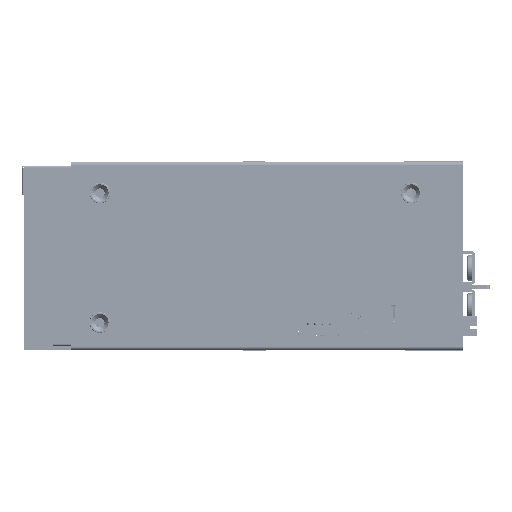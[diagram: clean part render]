
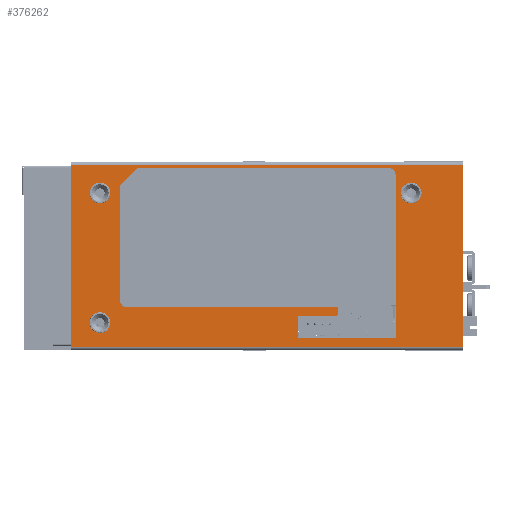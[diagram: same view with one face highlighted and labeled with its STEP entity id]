
A CAD part, top view. The second image highlights one B-rep face of the part: STEP entity #376262.
In plain terms, the highlighted planar face has unit normal (0, 0, 1) as drawn and (0, 0, -1) by its records, which use the part's own axes.
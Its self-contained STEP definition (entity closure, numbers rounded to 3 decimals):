
#371903=DIRECTION('',(0.,-1.,0.));
#371904=VECTOR('',#371903,108.8);
#371905=CARTESIAN_POINT('',(1.,-13.2,-0.8));
#371906=LINE('',#371905,#371904);
#372851=DIRECTION('',(1.,0.,0.));
#372852=VECTOR('',#372851,50.4);
#372853=CARTESIAN_POINT('',(1.,-13.2,-0.8));
#372854=LINE('',#372853,#372852);
#372858=DIRECTION('',(1.,0.,0.));
#372859=VECTOR('',#372858,50.4);
#372860=CARTESIAN_POINT('',(1.,-122.,-0.8));
#372861=LINE('',#372860,#372859);
#372865=CARTESIAN_POINT('',(38.47,-28.73,-0.8));
#372866=DIRECTION('',(0.,0.,-1.));
#372867=DIRECTION('',(0.,1.,0.));
#372868=AXIS2_PLACEMENT_3D('',#372865,#372866,#372867);
#372873=DIRECTION('',(0.,-1.,0.));
#372874=VECTOR('',#372873,58.47);
#372875=CARTESIAN_POINT('',(40.47,-28.73,-0.8));
#372876=LINE('',#372875,#372874);
#372880=DIRECTION('',(-1.,0.,0.));
#372881=VECTOR('',#372880,2.03);
#372882=CARTESIAN_POINT('',(42.5,-87.2,-0.8));
#372883=LINE('',#372882,#372881);
#372887=CARTESIAN_POINT('',(42.5,-86.7,-0.8));
#372888=DIRECTION('',(0.,0.,-1.));
#372889=DIRECTION('',(1.,0.,0.));
#372890=AXIS2_PLACEMENT_3D('',#372887,#372888,#372889);
#372895=DIRECTION('',(0.,-1.,0.));
#372896=VECTOR('',#372895,10.5);
#372897=CARTESIAN_POINT('',(43.,-76.2,-0.8));
#372898=LINE('',#372897,#372896);
#372902=DIRECTION('',(-1.,0.,0.));
#372903=VECTOR('',#372902,6.);
#372904=CARTESIAN_POINT('',(49.,-76.2,-0.8));
#372905=LINE('',#372904,#372903);
#372909=DIRECTION('',(0.,1.,0.));
#372910=VECTOR('',#372909,11.);
#372911=CARTESIAN_POINT('',(49.,-87.2,-0.8));
#372912=LINE('',#372911,#372910);
#372916=DIRECTION('',(0.,1.,0.));
#372917=VECTOR('',#372916,16.13);
#372918=CARTESIAN_POINT('',(49.,-103.33,-0.8));
#372919=LINE('',#372918,#372917);
#372923=CARTESIAN_POINT('',(3.8,-101.33,-0.8));
#372924=DIRECTION('',(0.,0.,-1.));
#372925=DIRECTION('',(0.,-1.,0.));
#372926=AXIS2_PLACEMENT_3D('',#372923,#372924,#372925);
#372931=DIRECTION('',(0.,1.,0.));
#372932=VECTOR('',#372931,69.6);
#372933=CARTESIAN_POINT('',(1.8,-101.33,-0.8));
#372934=LINE('',#372933,#372932);
#372938=DIRECTION('',(0.707,0.707,0.));
#372939=VECTOR('',#372938,7.071);
#372940=CARTESIAN_POINT('',(1.8,-31.73,-0.8));
#372941=LINE('',#372940,#372939);
#372945=DIRECTION('',(1.,0.,0.));
#372946=VECTOR('',#372945,31.67);
#372947=CARTESIAN_POINT('',(6.8,-26.73,-0.8));
#372948=LINE('',#372947,#372946);
#372952=CARTESIAN_POINT('',(44.74,-21.17,-0.8));
#372953=DIRECTION('',(0.,0.,-1.));
#372954=DIRECTION('',(1.,0.,0.));
#372955=AXIS2_PLACEMENT_3D('',#372952,#372953,#372954);
#372960=CARTESIAN_POINT('',(44.74,-21.17,-0.8));
#372961=DIRECTION('',(0.,0.,-1.));
#372962=DIRECTION('',(-1.,0.,0.));
#372963=AXIS2_PLACEMENT_3D('',#372960,#372961,#372962);
#372968=CARTESIAN_POINT('',(8.74,-21.17,-0.8));
#372969=DIRECTION('',(0.,0.,-1.));
#372970=DIRECTION('',(1.,0.,0.));
#372971=AXIS2_PLACEMENT_3D('',#372968,#372969,#372970);
#372976=CARTESIAN_POINT('',(8.74,-21.17,-0.8));
#372977=DIRECTION('',(0.,0.,-1.));
#372978=DIRECTION('',(-1.,0.,0.));
#372979=AXIS2_PLACEMENT_3D('',#372976,#372977,#372978);
#372984=CARTESIAN_POINT('',(8.74,-107.67,-0.8));
#372985=DIRECTION('',(0.,0.,-1.));
#372986=DIRECTION('',(1.,0.,0.));
#372987=AXIS2_PLACEMENT_3D('',#372984,#372985,#372986);
#372992=CARTESIAN_POINT('',(8.74,-107.67,-0.8));
#372993=DIRECTION('',(0.,0.,-1.));
#372994=DIRECTION('',(-1.,0.,0.));
#372995=AXIS2_PLACEMENT_3D('',#372992,#372993,#372994);
#373038=DIRECTION('',(0.,1.,0.));
#373039=VECTOR('',#373038,108.8);
#373040=CARTESIAN_POINT('',(51.4,-122.,-0.8));
#373041=LINE('',#373040,#373039);
#374232=DIRECTION('',(1.,0.,0.));
#374233=VECTOR('',#374232,45.2);
#374234=CARTESIAN_POINT('',(3.8,-103.33,-0.8));
#374235=LINE('',#374234,#374233);
#374409=CARTESIAN_POINT('',(51.4,-122.,-0.8));
#374411=VERTEX_POINT('',#374409);
#374417=CARTESIAN_POINT('',(1.,-122.,-0.8));
#374419=VERTEX_POINT('',#374417);
#374487=CARTESIAN_POINT('',(1.,-13.2,-0.8));
#374488=CARTESIAN_POINT('',(51.4,-13.2,-0.8));
#374489=VERTEX_POINT('',#374487);
#374490=VERTEX_POINT('',#374488);
#374501=CARTESIAN_POINT('',(49.,-76.2,-0.8));
#374502=CARTESIAN_POINT('',(43.,-76.2,-0.8));
#374503=VERTEX_POINT('',#374501);
#374504=VERTEX_POINT('',#374502);
#374603=CARTESIAN_POINT('',(49.,-87.2,-0.8));
#374604=VERTEX_POINT('',#374603);
#374699=CARTESIAN_POINT('',(49.,-103.33,-0.8));
#374700=VERTEX_POINT('',#374699);
#374705=CARTESIAN_POINT('',(43.,-86.7,-0.8));
#374706=VERTEX_POINT('',#374705);
#374707=CARTESIAN_POINT('',(42.5,-87.2,-0.8));
#374708=VERTEX_POINT('',#374707);
#374721=CARTESIAN_POINT('',(38.47,-26.73,-0.8));
#374722=CARTESIAN_POINT('',(40.47,-28.73,-0.8));
#374723=VERTEX_POINT('',#374721);
#374724=VERTEX_POINT('',#374722);
#374725=CARTESIAN_POINT('',(40.47,-87.2,-0.8));
#374726=VERTEX_POINT('',#374725);
#374727=CARTESIAN_POINT('',(3.8,-103.33,-0.8));
#374728=CARTESIAN_POINT('',(1.8,-101.33,-0.8));
#374729=VERTEX_POINT('',#374727);
#374730=VERTEX_POINT('',#374728);
#374731=CARTESIAN_POINT('',(1.8,-31.73,-0.8));
#374732=VERTEX_POINT('',#374731);
#374733=CARTESIAN_POINT('',(6.8,-26.73,-0.8));
#374734=VERTEX_POINT('',#374733);
#374753=CARTESIAN_POINT('',(11.615,-107.67,-0.8));
#374754=CARTESIAN_POINT('',(5.865,-107.67,-0.8));
#374755=VERTEX_POINT('',#374753);
#374756=VERTEX_POINT('',#374754);
#374757=CARTESIAN_POINT('',(11.615,-21.17,-0.8));
#374758=CARTESIAN_POINT('',(5.865,-21.17,-0.8));
#374759=VERTEX_POINT('',#374757);
#374760=VERTEX_POINT('',#374758);
#374761=CARTESIAN_POINT('',(47.615,-21.17,-0.8));
#374762=CARTESIAN_POINT('',(41.865,-21.17,-0.8));
#374763=VERTEX_POINT('',#374761);
#374764=VERTEX_POINT('',#374762);
#376203=CARTESIAN_POINT('',(0.,0.,-0.8));
#376204=DIRECTION('',(0.,0.,1.));
#376205=DIRECTION('',(1.,0.,0.));
#376206=AXIS2_PLACEMENT_3D('',#376203,#376204,#376205);
#376207=PLANE('',#376206);
#376208=ORIENTED_EDGE('',*,*,#374936,.F.);
#376209=ORIENTED_EDGE('',*,*,#375024,.T.);
#376211=ORIENTED_EDGE('',*,*,#376210,.T.);
#376213=ORIENTED_EDGE('',*,*,#376212,.T.);
#376214=EDGE_LOOP('',(#376208,#376209,#376211,#376213));
#376215=FACE_OUTER_BOUND('',#376214,.F.);
#376217=ORIENTED_EDGE('',*,*,#376216,.T.);
#376219=ORIENTED_EDGE('',*,*,#376218,.T.);
#376221=ORIENTED_EDGE('',*,*,#376220,.F.);
#376223=ORIENTED_EDGE('',*,*,#376222,.F.);
#376225=ORIENTED_EDGE('',*,*,#376224,.F.);
#376227=ORIENTED_EDGE('',*,*,#376226,.F.);
#376229=ORIENTED_EDGE('',*,*,#376228,.F.);
#376231=ORIENTED_EDGE('',*,*,#376230,.F.);
#376233=ORIENTED_EDGE('',*,*,#376232,.F.);
#376235=ORIENTED_EDGE('',*,*,#376234,.T.);
#376237=ORIENTED_EDGE('',*,*,#376236,.T.);
#376239=ORIENTED_EDGE('',*,*,#376238,.T.);
#376241=ORIENTED_EDGE('',*,*,#376240,.T.);
#376242=EDGE_LOOP('',(#376217,#376219,#376221,#376223,#376225,#376227,#376229,
#376231,#376233,#376235,#376237,#376239,#376241));
#376243=FACE_BOUND('',#376242,.F.);
#376245=ORIENTED_EDGE('',*,*,#376244,.T.);
#376247=ORIENTED_EDGE('',*,*,#376246,.T.);
#376248=EDGE_LOOP('',(#376245,#376247));
#376249=FACE_BOUND('',#376248,.F.);
#376251=ORIENTED_EDGE('',*,*,#376250,.T.);
#376253=ORIENTED_EDGE('',*,*,#376252,.T.);
#376254=EDGE_LOOP('',(#376251,#376253));
#376255=FACE_BOUND('',#376254,.F.);
#376257=ORIENTED_EDGE('',*,*,#376256,.T.);
#376259=ORIENTED_EDGE('',*,*,#376258,.T.);
#376260=EDGE_LOOP('',(#376257,#376259));
#376261=FACE_BOUND('',#376260,.F.);
#376262=ADVANCED_FACE('',(#376215,#376243,#376249,#376255,#376261),#376207,.F.);
#372869=CIRCLE('',#372868,2.);
#372891=CIRCLE('',#372890,0.5);
#372927=CIRCLE('',#372926,2.);
#372956=CIRCLE('',#372955,2.875);
#372964=CIRCLE('',#372963,2.875);
#372972=CIRCLE('',#372971,2.875);
#372980=CIRCLE('',#372979,2.875);
#372988=CIRCLE('',#372987,2.875);
#372996=CIRCLE('',#372995,2.875);
#374936=EDGE_CURVE('',#374489,#374490,#372854,.T.);
#375024=EDGE_CURVE('',#374489,#374419,#371906,.T.);
#376210=EDGE_CURVE('',#374419,#374411,#372861,.T.);
#376212=EDGE_CURVE('',#374411,#374490,#373041,.T.);
#376216=EDGE_CURVE('',#374723,#374724,#372869,.T.);
#376218=EDGE_CURVE('',#374724,#374726,#372876,.T.);
#376220=EDGE_CURVE('',#374708,#374726,#372883,.T.);
#376222=EDGE_CURVE('',#374706,#374708,#372891,.T.);
#376224=EDGE_CURVE('',#374504,#374706,#372898,.T.);
#376226=EDGE_CURVE('',#374503,#374504,#372905,.T.);
#376228=EDGE_CURVE('',#374604,#374503,#372912,.T.);
#376230=EDGE_CURVE('',#374700,#374604,#372919,.T.);
#376232=EDGE_CURVE('',#374729,#374700,#374235,.T.);
#376234=EDGE_CURVE('',#374729,#374730,#372927,.T.);
#376236=EDGE_CURVE('',#374730,#374732,#372934,.T.);
#376238=EDGE_CURVE('',#374732,#374734,#372941,.T.);
#376240=EDGE_CURVE('',#374734,#374723,#372948,.T.);
#376244=EDGE_CURVE('',#374763,#374764,#372956,.T.);
#376246=EDGE_CURVE('',#374764,#374763,#372964,.T.);
#376250=EDGE_CURVE('',#374759,#374760,#372972,.T.);
#376252=EDGE_CURVE('',#374760,#374759,#372980,.T.);
#376256=EDGE_CURVE('',#374755,#374756,#372988,.T.);
#376258=EDGE_CURVE('',#374756,#374755,#372996,.T.);
